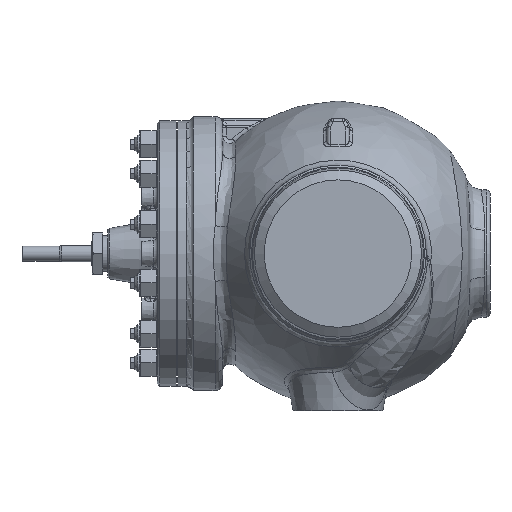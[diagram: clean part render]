
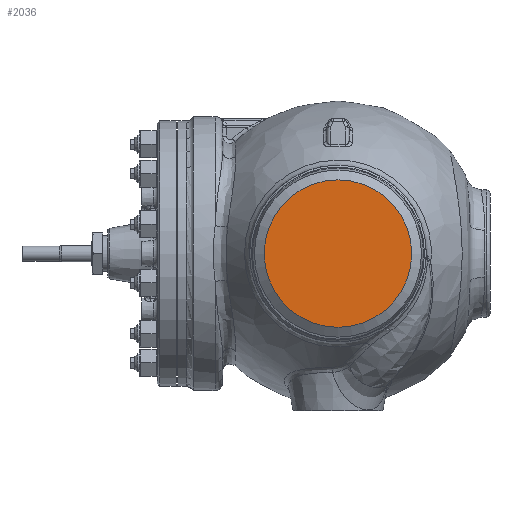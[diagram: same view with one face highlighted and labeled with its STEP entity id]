
A CAD part, left-side view. The second image highlights one B-rep face of the part: STEP entity #2036.
In plain terms, the highlighted planar face has unit normal (-1, 0, 0).
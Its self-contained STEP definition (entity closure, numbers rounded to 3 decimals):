
#1144=PLANE('',#12107);
#2036=ADVANCED_FACE('',(#2922),#1144,.T.);
#2922=FACE_OUTER_BOUND('',#3578,.T.);
#3578=EDGE_LOOP('',(#5408));
#5408=ORIENTED_EDGE('',*,*,#9807,.T.);
#8748=VERTEX_POINT('',#17158);
#9807=EDGE_CURVE('',#8748,#8748,#11460,.T.);
#11460=CIRCLE('',#12106,98.45);
#12106=AXIS2_PLACEMENT_3D('',#17157,#13491,#13492);
#12107=AXIS2_PLACEMENT_3D('',#17159,#13493,#13494);
#13491=DIRECTION('',(-1.,0.,0.));
#13492=DIRECTION('',(0.,0.,1.));
#13493=DIRECTION('',(-1.,0.,0.));
#13494=DIRECTION('',(0.,0.,1.));
#17157=CARTESIAN_POINT('',(-305.,0.,0.));
#17158=CARTESIAN_POINT('',(-305.,0.,98.45));
#17159=CARTESIAN_POINT('',(-305.,96.85,0.));
